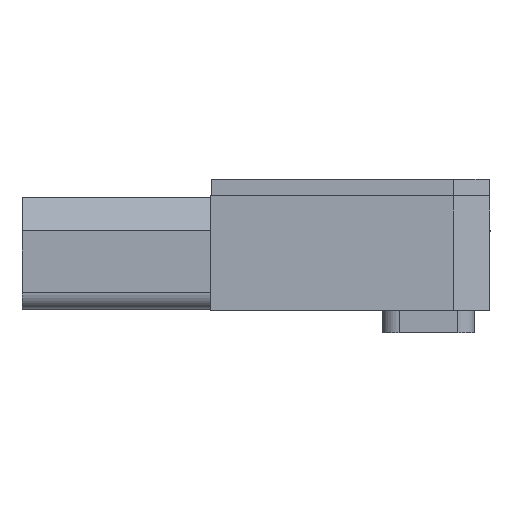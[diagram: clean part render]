
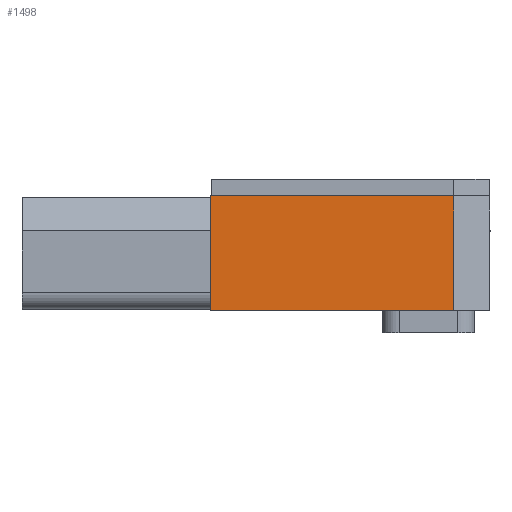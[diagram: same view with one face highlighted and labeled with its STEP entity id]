
A CAD part, front view. The second image highlights one B-rep face of the part: STEP entity #1498.
In plain terms, the highlighted planar face has unit normal (0, -1, 0).
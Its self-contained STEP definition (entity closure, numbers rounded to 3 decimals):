
#1498=ADVANCED_FACE('',(#3499),#3500,.T.);
#3499=FACE_OUTER_BOUND('',#6242,.T.);
#3500=PLANE('',#6243);
#6242=EDGE_LOOP('',(#10891,#10892,#10893,#10894));
#6243=AXIS2_PLACEMENT_3D('',#10895,#10896,#10897);
#10891=ORIENTED_EDGE('',*,*,#16716,.T.);
#10892=ORIENTED_EDGE('',*,*,#16550,.T.);
#10893=ORIENTED_EDGE('',*,*,#15905,.F.);
#10894=ORIENTED_EDGE('',*,*,#17000,.F.);
#10895=CARTESIAN_POINT('',(82.679,0.0,0.));
#10896=DIRECTION('',(0.,-1.0,0.));
#10897=DIRECTION('',(0.0,0.,-1.0));
#15905=EDGE_CURVE('',#18758,#18760,#18761,.T.);
#16550=EDGE_CURVE('',#19864,#18760,#19866,.T.);
#16716=EDGE_CURVE('',#20106,#19864,#20107,.T.);
#17000=EDGE_CURVE('',#20106,#18758,#20477,.T.);
#18758=VERTEX_POINT('',#23032);
#18760=VERTEX_POINT('',#23035);
#18761=LINE('',#23036,#23037);
#19864=VERTEX_POINT('',#24928);
#19866=LINE('',#24931,#24932);
#20106=VERTEX_POINT('',#25348);
#20107=LINE('',#25349,#25350);
#20477=LINE('',#25944,#25945);
#23032=CARTESIAN_POINT('',(0.0,0.0,41.0));
#23035=CARTESIAN_POINT('',(87.,0.,41.0));
#23036=CARTESIAN_POINT('',(82.679,0.0,41.0));
#23037=VECTOR('',#29855,1.0);
#24928=CARTESIAN_POINT('',(87.,0.0,0.));
#24931=CARTESIAN_POINT('',(87.,0.0,0.));
#24932=VECTOR('',#30199,1.0);
#25348=CARTESIAN_POINT('',(0.0,0.0,0.));
#25349=CARTESIAN_POINT('',(82.679,0.0,0.));
#25350=VECTOR('',#30283,1.0);
#25944=CARTESIAN_POINT('',(0.0,0.0,0.));
#25945=VECTOR('',#30456,1.0);
#29855=DIRECTION('',(1.0,0.0,0.));
#30199=DIRECTION('',(0.,0.,1.0));
#30283=DIRECTION('',(1.0,0.0,0.));
#30456=DIRECTION('',(0.,0.,1.0));
